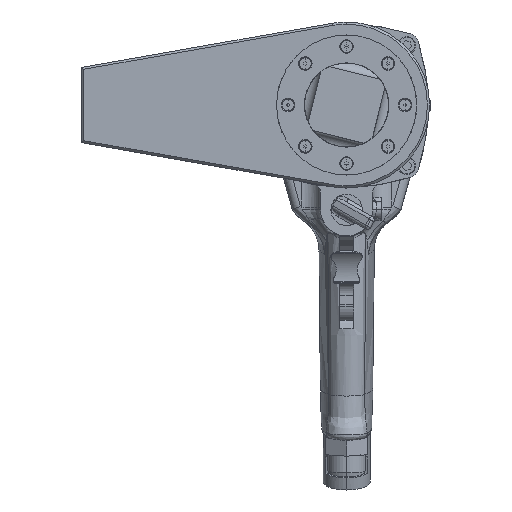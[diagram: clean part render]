
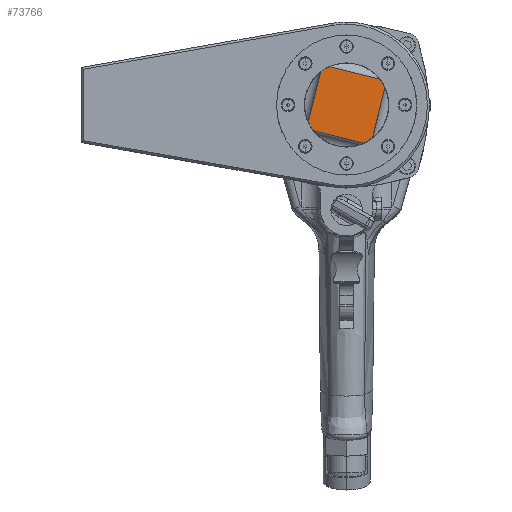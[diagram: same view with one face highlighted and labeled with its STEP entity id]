
A CAD part, top view. The second image highlights one B-rep face of the part: STEP entity #73766.
In plain terms, the highlighted planar face has unit normal (0, 0, 1).
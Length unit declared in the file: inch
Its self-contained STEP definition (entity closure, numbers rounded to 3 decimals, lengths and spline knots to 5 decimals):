
#382 = EDGE_CURVE ( 'NONE', #66234, #119879, #68323, .T. ) ;
#909 = VECTOR ( 'NONE', #9432, 39.37008 ) ;
#1926 = EDGE_CURVE ( 'NONE', #67864, #119879, #42942, .T. ) ;
#2542 = DIRECTION ( 'NONE',  ( 0.243, 0.97, 0. ) ) ;
#4199 = CARTESIAN_POINT ( 'NONE',  ( 0., 0., 4.51229 ) ) ;
#5366 = EDGE_CURVE ( 'NONE', #52052, #68206, #35840, .T. ) ;
#6795 = CARTESIAN_POINT ( 'NONE',  ( -0.58278, 0.75024, 4.51229 ) ) ;
#8824 = ORIENTED_EDGE ( 'NONE', *, *, #135343, .T. ) ;
#9432 = DIRECTION ( 'NONE',  ( -0.97, 0.243, 0. ) ) ;
#15800 = DIRECTION ( 'NONE',  ( -0.243, -0.97, 0. ) ) ;
#20342 = CARTESIAN_POINT ( 'NONE',  ( 0.75024, 0.58278, 4.51229 ) ) ;
#21474 = VECTOR ( 'NONE', #108937, 39.37008 ) ;
#29185 = DIRECTION ( 'NONE',  ( 0., 0., -1. ) ) ;
#30269 = ORIENTED_EDGE ( 'NONE', *, *, #145656, .F. ) ;
#33438 = VERTEX_POINT ( 'NONE', #75191 ) ;
#35840 = LINE ( 'NONE', #94244, #62760 ) ;
#37700 = VECTOR ( 'NONE', #2542, 39.37008 ) ;
#42942 = CIRCLE ( 'NONE', #107996, 0.95 ) ;
#43734 = AXIS2_PLACEMENT_3D ( 'NONE', #63224, #143615, #74777 ) ;
#45165 = CARTESIAN_POINT ( 'NONE',  ( 0., 0., 4.51229 ) ) ;
#46403 = FACE_OUTER_BOUND ( 'NONE', #120371, .T. ) ;
#48656 = CARTESIAN_POINT ( 'NONE',  ( -0.75024, -0.58278, 4.51229 ) ) ;
#51640 = CARTESIAN_POINT ( 'NONE',  ( -0.18149, -0.72513, 4.51229 ) ) ;
#52052 = VERTEX_POINT ( 'NONE', #6795 ) ;
#56489 = AXIS2_PLACEMENT_3D ( 'NONE', #4199, #84685, #15800 ) ;
#56657 = DIRECTION ( 'NONE',  ( -0.243, -0.97, 0. ) ) ;
#62534 = CARTESIAN_POINT ( 'NONE',  ( 0., 0., 4.51229 ) ) ;
#62760 = VECTOR ( 'NONE', #93620, 39.37008 ) ;
#63224 = CARTESIAN_POINT ( 'NONE',  ( 0., 0., 4.51229 ) ) ;
#64952 = ORIENTED_EDGE ( 'NONE', *, *, #104113, .F. ) ;
#66234 = VERTEX_POINT ( 'NONE', #133450 ) ;
#67621 = ORIENTED_EDGE ( 'NONE', *, *, #1926, .F. ) ;
#67864 = VERTEX_POINT ( 'NONE', #20342 ) ;
#68092 = DIRECTION ( 'NONE',  ( 0., 0., -1. ) ) ;
#68206 = VERTEX_POINT ( 'NONE', #139890 ) ;
#68323 = LINE ( 'NONE', #74366, #37700 ) ;
#73766 = ADVANCED_FACE ( 'NONE', ( #46403 ), #143257, .F. ) ;
#74366 = CARTESIAN_POINT ( 'NONE',  ( 0.72513, -0.18149, 4.51229 ) ) ;
#74777 = DIRECTION ( 'NONE',  ( -0.243, -0.97, 0. ) ) ;
#75191 = CARTESIAN_POINT ( 'NONE',  ( -0.38726, 0.86748, 4.51229 ) ) ;
#76904 = AXIS2_PLACEMENT_3D ( 'NONE', #98024, #29185, #109608 ) ;
#81246 = EDGE_CURVE ( 'NONE', #66234, #118019, #137815, .T. ) ;
#81813 = EDGE_CURVE ( 'NONE', #67864, #33438, #92649, .T. ) ;
#84685 = DIRECTION ( 'NONE',  ( 0., 0., -1. ) ) ;
#89906 = CARTESIAN_POINT ( 'NONE',  ( 0.18149, 0.72513, 4.51229 ) ) ;
#92649 = LINE ( 'NONE', #89906, #909 ) ;
#93620 = DIRECTION ( 'NONE',  ( -0.243, -0.97, 0. ) ) ;
#94244 = CARTESIAN_POINT ( 'NONE',  ( -0.72513, 0.18149, 4.51229 ) ) ;
#96313 = VERTEX_POINT ( 'NONE', #48656 ) ;
#97367 = CARTESIAN_POINT ( 'NONE',  ( 0.38726, -0.86748, 4.51229 ) ) ;
#98024 = CARTESIAN_POINT ( 'NONE',  ( 0., 0., 4.51229 ) ) ;
#100404 = ORIENTED_EDGE ( 'NONE', *, *, #5366, .T. ) ;
#104113 = EDGE_CURVE ( 'NONE', #52052, #33438, #137021, .T. ) ;
#106208 = CARTESIAN_POINT ( 'NONE',  ( 0.86748, 0.38726, 4.51229 ) ) ;
#107996 = AXIS2_PLACEMENT_3D ( 'NONE', #62534, #68092, #126021 ) ;
#108385 = AXIS2_PLACEMENT_3D ( 'NONE', #45165, #125528, #56657 ) ;
#108937 = DIRECTION ( 'NONE',  ( 0.97, -0.243, 0. ) ) ;
#109608 = DIRECTION ( 'NONE',  ( -0.243, -0.97, 0. ) ) ;
#110496 = ORIENTED_EDGE ( 'NONE', *, *, #81813, .T. ) ;
#118019 = VERTEX_POINT ( 'NONE', #97367 ) ;
#119879 = VERTEX_POINT ( 'NONE', #106208 ) ;
#120371 = EDGE_LOOP ( 'NONE', ( #8824, #138225, #127593, #67621, #110496, #64952, #100404, #30269 ) ) ;
#121838 = CIRCLE ( 'NONE', #56489, 0.95 ) ;
#125528 = DIRECTION ( 'NONE',  ( 0., 0., -1. ) ) ;
#126021 = DIRECTION ( 'NONE',  ( -0.243, -0.97, 0. ) ) ;
#127593 = ORIENTED_EDGE ( 'NONE', *, *, #382, .T. ) ;
#133450 = CARTESIAN_POINT ( 'NONE',  ( 0.58278, -0.75024, 4.51229 ) ) ;
#135343 = EDGE_CURVE ( 'NONE', #96313, #118019, #143692, .T. ) ;
#137021 = CIRCLE ( 'NONE', #108385, 0.95 ) ;
#137815 = CIRCLE ( 'NONE', #43734, 0.95 ) ;
#138225 = ORIENTED_EDGE ( 'NONE', *, *, #81246, .F. ) ;
#139890 = CARTESIAN_POINT ( 'NONE',  ( -0.86748, -0.38726, 4.51229 ) ) ;
#143257 = PLANE ( 'NONE',  #76904 ) ;
#143615 = DIRECTION ( 'NONE',  ( 0., 0., -1. ) ) ;
#143692 = LINE ( 'NONE', #51640, #21474 ) ;
#145656 = EDGE_CURVE ( 'NONE', #96313, #68206, #121838, .T. ) ;
